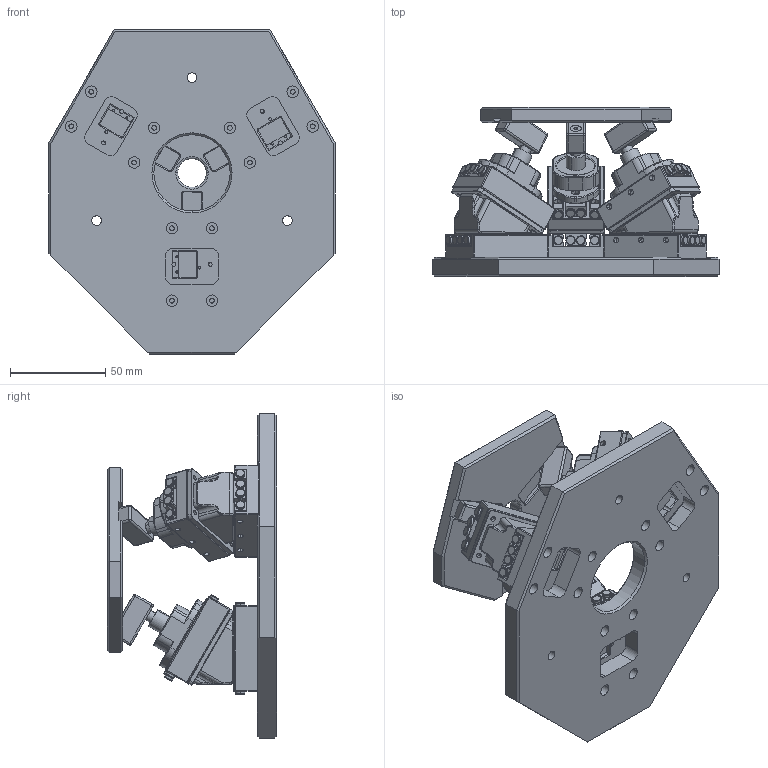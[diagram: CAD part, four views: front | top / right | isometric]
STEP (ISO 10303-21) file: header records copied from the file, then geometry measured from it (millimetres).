
FILE_DESCRIPTION((''),'2;1');
FILE_NAME('ASM0001_ASM','2022-07-04T10:09:26',('1'),(''),'CREO PARAMETRIC BY PTC INC, 2021063','CREO PARAMETRIC BY PTC INC, 2021063','');
FILE_SCHEMA(('AUTOMOTIVE_DESIGN { 1 0 10303 214 1 1 1 1 }'));
Length unit declared in the file: millimetre
Products named in the file (15): BASE; BASE-STICK-SLIP-U; CRWM245_TRACK_1; CRWM245_TRACK_2; CRWM245_MIDDLE_TRACK; STICK-SLIP_AF0_ASM; TILT-PLATFORM; SPERICAL-SURPPORT_BASE; SPERICAL-JOINT; STICK-SLIP_AF2_ASM; STICK-SLIP_AF1_ASM; PLATFORM-MINI; SPATIAL-MINI; PLATFORM_ASM; ASM0001_ASM
Assembly tree (42 placements, depth 3):
  ASM0001_ASM
    BASE
    STICK-SLIP_AF0_ASM
      BASE-STICK-SLIP-U
      CRWM245_TRACK_1
      CRWM245_TRACK_2
      CRWM245_MIDDLE_TRACK
    TILT-PLATFORM  x3
    BASE-STICK-SLIP-U  x3
    CRWM245_TRACK_1  x3
    CRWM245_TRACK_2  x3
    CRWM245_MIDDLE_TRACK  x3
    SPERICAL-SURPPORT_BASE  x3
    SPERICAL-JOINT  x3
    STICK-SLIP_AF2_ASM
      BASE-STICK-SLIP-U
      CRWM245_TRACK_1
      CRWM245_TRACK_2
      CRWM245_MIDDLE_TRACK
    STICK-SLIP_AF1_ASM
      BASE-STICK-SLIP-U
      CRWM245_TRACK_1
      CRWM245_TRACK_2
      CRWM245_MIDDLE_TRACK
    PLATFORM_ASM
      PLATFORM-MINI
      SPATIAL-MINI  x3
Bounding box: 150 x 88.66 x 170 mm (x, y, z)
Volume: 366418.5 mm3; surface area: 161283.8 mm2
Topology: 38 solids, 38 shells, 2921 faces, 7054 edges, 4275 vertices
Faces by surface type: cylinder 1311, plane 938, torus 254, cone 244, sphere 114, bspline 60
Entity records: 30573 total; most frequent: CARTESIAN_POINT 6106, DIRECTION 4844, ORIENTED_EDGE 4250, EDGE_CURVE 2125, AXIS2_PLACEMENT_3D 1853, VERTEX_POINT 1293, VECTOR 1138, LINE 1138
